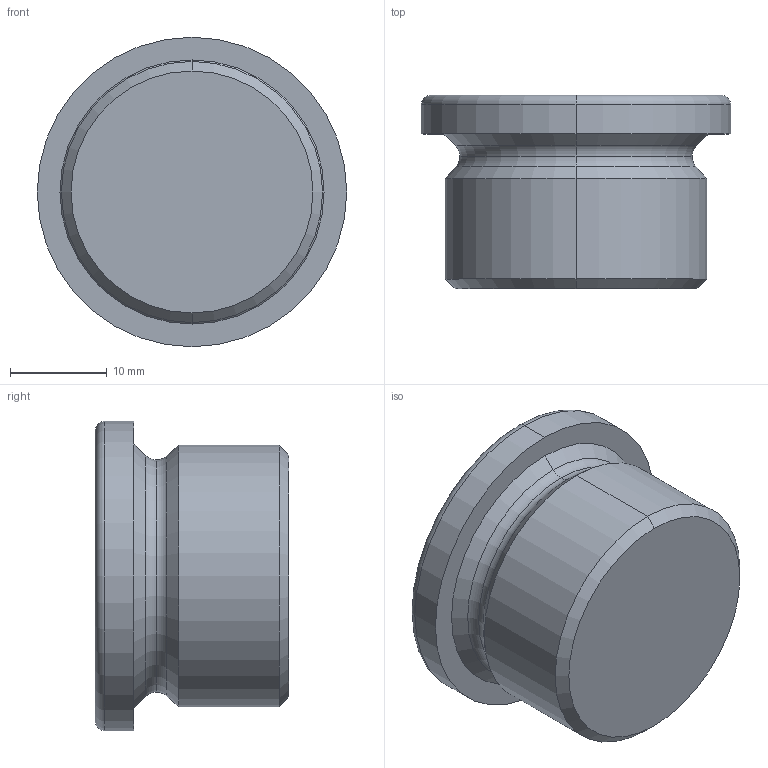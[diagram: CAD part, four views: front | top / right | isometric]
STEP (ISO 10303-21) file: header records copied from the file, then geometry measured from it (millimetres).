
FILE_DESCRIPTION (( 'STEP AP214' ), '1' );
FILE_NAME ('908-ST-M27x2-A.step', '2024-12-19T09:17:22', ( '' ), ( '' ), 'SwSTEP 2.0', 'SolidWorks 2022', '' );
FILE_SCHEMA (( 'AUTOMOTIVE_DESIGN' ));
Length unit declared in the file: millimetre
Products named in the file (1): 908-ST-M27x2-A
Bounding box: 32 x 20 x 32 mm (x, y, z)
Volume: 10852.6 mm3; surface area: 3699.3 mm2
Topology: 1 solids, 1 shells, 26 faces, 54 edges, 32 vertices
Faces by surface type: plane 10, torus 6, cone 6, cylinder 4
Entity records: 744 total; most frequent: DIRECTION 134, CARTESIAN_POINT 113, ORIENTED_EDGE 108, EDGE_CURVE 54, AXIS2_PLACEMENT_3D 53, VERTEX_POINT 32, VECTOR 28, LINE 28
